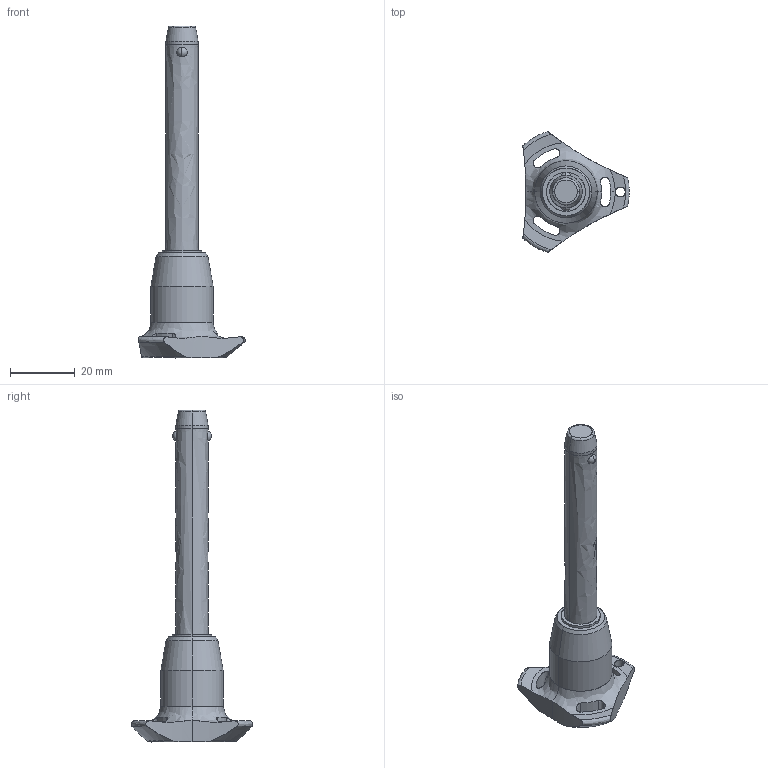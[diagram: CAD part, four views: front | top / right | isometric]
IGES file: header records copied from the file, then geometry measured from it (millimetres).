
Start section: SolidWorks IGES file using analytic representation for surfaces
Global section: file name: C:\Users\ianosborn\Desktop\33060_v2\33060.BK_v2_20240910_IGES\33060.W0852.igs; native system: SolidWorks 2019; preprocessor: SolidWorks 2019; author: IanOsborn; date: 240910.201253; units: millimetre
Bounding box: 33 x 37.51 x 102.9 mm (x, y, z)
Surface area: 6049.6 mm2 (no closed solid volume)
Topology: 0 solids, 0 shells, 68 faces, 1354 edges, 1350 vertices
Faces by surface type: revolution 52, bspline 16
